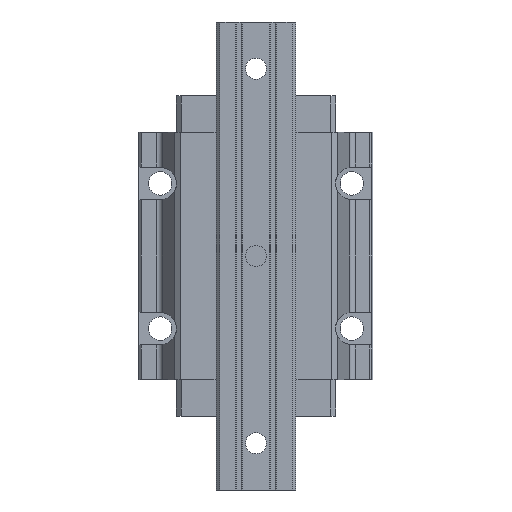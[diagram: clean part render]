
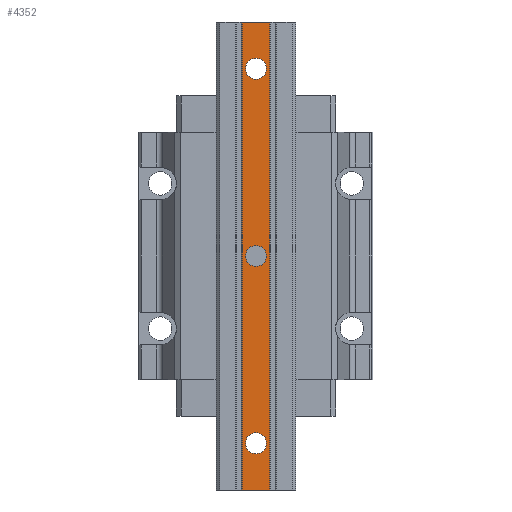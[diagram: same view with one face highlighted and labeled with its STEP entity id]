
A CAD part, front view. The second image highlights one B-rep face of the part: STEP entity #4352.
In plain terms, the highlighted planar face has unit normal (0, -1, 0).
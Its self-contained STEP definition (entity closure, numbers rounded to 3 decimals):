
#3262=DIRECTION('',(1.,0.,0.));
#3263=VECTOR('',#3262,11.7);
#3264=CARTESIAN_POINT('',(-5.85,-29.,-100.));
#3265=LINE('',#3264,#3263);
#3410=DIRECTION('',(0.,0.,1.));
#3411=VECTOR('',#3410,200.);
#3412=CARTESIAN_POINT('',(5.85,-29.,-100.));
#3413=LINE('',#3412,#3411);
#3414=DIRECTION('',(0.,0.,1.));
#3415=VECTOR('',#3414,200.);
#3416=CARTESIAN_POINT('',(-5.85,-29.,-100.));
#3417=LINE('',#3416,#3415);
#3418=DIRECTION('',(1.,0.,0.));
#3419=VECTOR('',#3418,11.7);
#3420=CARTESIAN_POINT('',(-5.85,-29.,100.));
#3421=LINE('',#3420,#3419);
#3422=CARTESIAN_POINT('',(0.,-29.,0.));
#3423=DIRECTION('',(0.,-1.,0.));
#3424=DIRECTION('',(1.,0.,0.));
#3425=AXIS2_PLACEMENT_3D('',#3422,#3423,#3424);
#3427=CARTESIAN_POINT('',(0.,-29.,0.));
#3428=DIRECTION('',(0.,-1.,0.));
#3429=DIRECTION('',(-1.,0.,0.));
#3430=AXIS2_PLACEMENT_3D('',#3427,#3428,#3429);
#3432=CARTESIAN_POINT('',(0.,-29.,80.));
#3433=DIRECTION('',(0.,-1.,0.));
#3434=DIRECTION('',(1.,0.,0.));
#3435=AXIS2_PLACEMENT_3D('',#3432,#3433,#3434);
#3437=CARTESIAN_POINT('',(0.,-29.,80.));
#3438=DIRECTION('',(0.,-1.,0.));
#3439=DIRECTION('',(-1.,0.,0.));
#3440=AXIS2_PLACEMENT_3D('',#3437,#3438,#3439);
#3442=CARTESIAN_POINT('',(0.,-29.,-80.));
#3443=DIRECTION('',(0.,-1.,0.));
#3444=DIRECTION('',(1.,0.,0.));
#3445=AXIS2_PLACEMENT_3D('',#3442,#3443,#3444);
#3447=CARTESIAN_POINT('',(0.,-29.,-80.));
#3448=DIRECTION('',(0.,-1.,0.));
#3449=DIRECTION('',(-1.,0.,0.));
#3450=AXIS2_PLACEMENT_3D('',#3447,#3448,#3449);
#3856=CARTESIAN_POINT('',(-5.85,-29.,-100.));
#3857=VERTEX_POINT('',#3856);
#3858=CARTESIAN_POINT('',(5.85,-29.,-100.));
#3859=VERTEX_POINT('',#3858);
#3920=CARTESIAN_POINT('',(5.85,-29.,100.));
#3921=VERTEX_POINT('',#3920);
#3922=CARTESIAN_POINT('',(-5.85,-29.,100.));
#3923=VERTEX_POINT('',#3922);
#3924=CARTESIAN_POINT('',(4.5,-29.,0.));
#3925=CARTESIAN_POINT('',(-4.5,-29.,0.));
#3926=VERTEX_POINT('',#3924);
#3927=VERTEX_POINT('',#3925);
#3928=CARTESIAN_POINT('',(4.5,-29.,80.));
#3929=CARTESIAN_POINT('',(-4.5,-29.,80.));
#3930=VERTEX_POINT('',#3928);
#3931=VERTEX_POINT('',#3929);
#3932=CARTESIAN_POINT('',(4.5,-29.,-80.));
#3933=CARTESIAN_POINT('',(-4.5,-29.,-80.));
#3934=VERTEX_POINT('',#3932);
#3935=VERTEX_POINT('',#3933);
#4321=CARTESIAN_POINT('',(-5.85,-29.,-100.));
#4322=DIRECTION('',(0.,-1.,0.));
#4323=DIRECTION('',(1.,0.,0.));
#4324=AXIS2_PLACEMENT_3D('',#4321,#4322,#4323);
#4325=PLANE('',#4324);
#4326=ORIENTED_EDGE('',*,*,#4061,.F.);
#4328=ORIENTED_EDGE('',*,*,#4327,.T.);
#4330=ORIENTED_EDGE('',*,*,#4329,.T.);
#4331=ORIENTED_EDGE('',*,*,#4313,.F.);
#4332=EDGE_LOOP('',(#4326,#4328,#4330,#4331));
#4333=FACE_OUTER_BOUND('',#4332,.F.);
#4335=ORIENTED_EDGE('',*,*,#4334,.T.);
#4337=ORIENTED_EDGE('',*,*,#4336,.T.);
#4338=EDGE_LOOP('',(#4335,#4337));
#4339=FACE_BOUND('',#4338,.F.);
#4341=ORIENTED_EDGE('',*,*,#4340,.T.);
#4343=ORIENTED_EDGE('',*,*,#4342,.T.);
#4344=EDGE_LOOP('',(#4341,#4343));
#4345=FACE_BOUND('',#4344,.F.);
#4347=ORIENTED_EDGE('',*,*,#4346,.T.);
#4349=ORIENTED_EDGE('',*,*,#4348,.T.);
#4350=EDGE_LOOP('',(#4347,#4349));
#4351=FACE_BOUND('',#4350,.F.);
#4352=ADVANCED_FACE('',(#4333,#4339,#4345,#4351),#4325,.T.);
#3426=CIRCLE('',#3425,4.5);
#3431=CIRCLE('',#3430,4.5);
#3436=CIRCLE('',#3435,4.5);
#3441=CIRCLE('',#3440,4.5);
#3446=CIRCLE('',#3445,4.5);
#3451=CIRCLE('',#3450,4.5);
#4061=EDGE_CURVE('',#3857,#3859,#3265,.T.);
#4313=EDGE_CURVE('',#3859,#3921,#3413,.T.);
#4327=EDGE_CURVE('',#3857,#3923,#3417,.T.);
#4329=EDGE_CURVE('',#3923,#3921,#3421,.T.);
#4334=EDGE_CURVE('',#3926,#3927,#3426,.T.);
#4336=EDGE_CURVE('',#3927,#3926,#3431,.T.);
#4340=EDGE_CURVE('',#3930,#3931,#3436,.T.);
#4342=EDGE_CURVE('',#3931,#3930,#3441,.T.);
#4346=EDGE_CURVE('',#3934,#3935,#3446,.T.);
#4348=EDGE_CURVE('',#3935,#3934,#3451,.T.);
